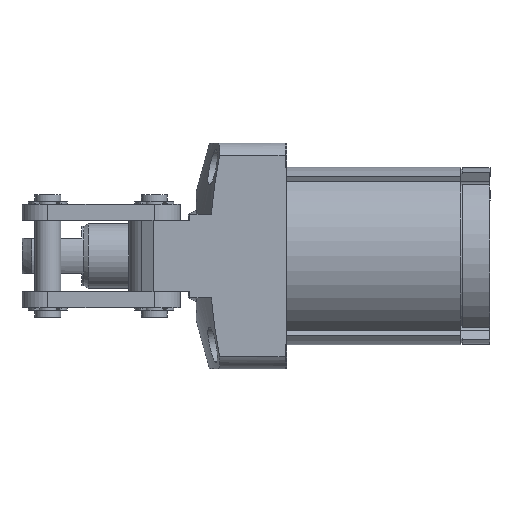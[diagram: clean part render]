
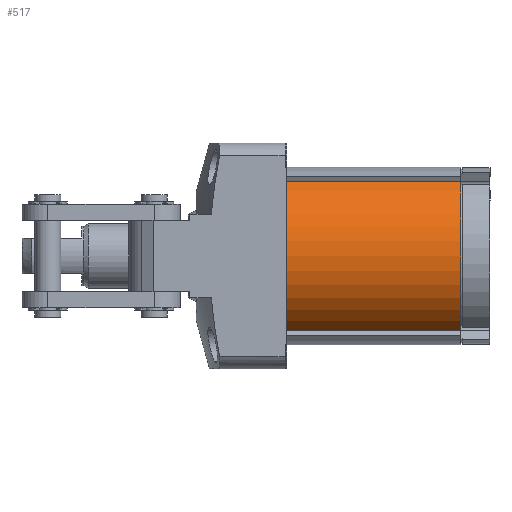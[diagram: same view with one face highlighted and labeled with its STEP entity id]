
A CAD part, left-side view. The second image highlights one B-rep face of the part: STEP entity #517.
In plain terms, the highlighted cylindrical face has radius 27.5 mm (diameter 55 mm), a partial arc.
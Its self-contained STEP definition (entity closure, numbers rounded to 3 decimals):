
#517 = ADVANCED_FACE( '', ( #1065 ), #1066, .T. );
#1065 = FACE_OUTER_BOUND( '', #1884, .T. );
#1066 = CYLINDRICAL_SURFACE( '', #1885, 27.5 );
#1884 = EDGE_LOOP( '', ( #3452, #3453, #3454, #3455 ) );
#1885 = AXIS2_PLACEMENT_3D( '', #3456, #3457, #3458 );
#3452 = ORIENTED_EDGE( '', *, *, #5592, .F. );
#3453 = ORIENTED_EDGE( '', *, *, #5312, .F. );
#3454 = ORIENTED_EDGE( '', *, *, #5597, .T. );
#3455 = ORIENTED_EDGE( '', *, *, #5235, .T. );
#3456 = CARTESIAN_POINT( '', ( 0., -54., 0. ) );
#3457 = DIRECTION( '', ( 0., -1., 0. ) );
#3458 = DIRECTION( '', ( 1., 0., 0. ) );
#5235 = EDGE_CURVE( '', #6143, #6141, #6144, .T. );
#5312 = EDGE_CURVE( '', #6292, #6294, #6295, .T. );
#5592 = EDGE_CURVE( '', #6294, #6141, #6763, .T. );
#5597 = EDGE_CURVE( '', #6292, #6143, #6768, .T. );
#6141 = VERTEX_POINT( '', #7623 );
#6143 = VERTEX_POINT( '', #7626 );
#6144 = CIRCLE( '', #7627, 27.5 );
#6292 = VERTEX_POINT( '', #7823 );
#6294 = VERTEX_POINT( '', #7826 );
#6295 = CIRCLE( '', #7827, 27.5 );
#6763 = LINE( '', #9127, #9128 );
#6768 = LINE( '', #9137, #9138 );
#7623 = CARTESIAN_POINT( '', ( -15.112, 0., -22.975 ) );
#7626 = CARTESIAN_POINT( '', ( -15.112, 0., 22.975 ) );
#7627 = AXIS2_PLACEMENT_3D( '', #10297, #10298, #10299 );
#7823 = CARTESIAN_POINT( '', ( -15.112, -54., 22.975 ) );
#7826 = CARTESIAN_POINT( '', ( -15.112, -54., -22.975 ) );
#7827 = AXIS2_PLACEMENT_3D( '', #10430, #10431, #10432 );
#9127 = CARTESIAN_POINT( '', ( -15.112, -54., -22.975 ) );
#9128 = VECTOR( '', #10857, 1000. );
#9137 = CARTESIAN_POINT( '', ( -15.112, -94.689, 22.975 ) );
#9138 = VECTOR( '', #10862, 1000. );
#10297 = CARTESIAN_POINT( '', ( 0., 0., 0. ) );
#10298 = DIRECTION( '', ( 0., -1., 0. ) );
#10299 = DIRECTION( '', ( 0., 0., -1. ) );
#10430 = CARTESIAN_POINT( '', ( 0., -54., 0. ) );
#10431 = DIRECTION( '', ( 0., -1., 0. ) );
#10432 = DIRECTION( '', ( 0., 0., -1. ) );
#10857 = DIRECTION( '', ( 0., 1., 0. ) );
#10862 = DIRECTION( '', ( 0., 1., 0. ) );
